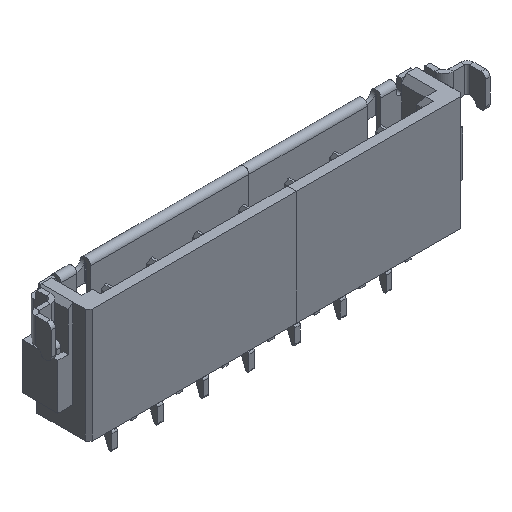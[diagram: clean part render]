
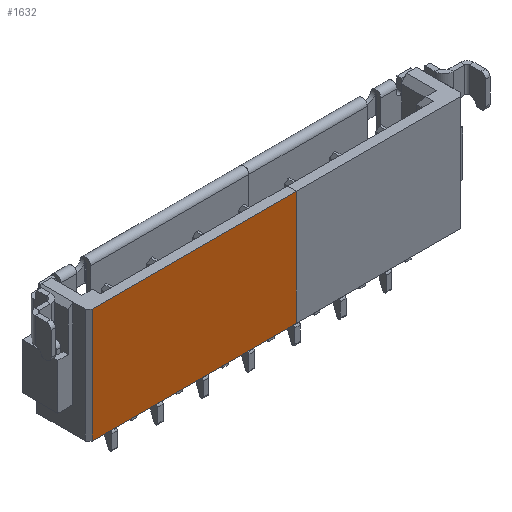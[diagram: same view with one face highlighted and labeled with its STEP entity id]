
A CAD part, isometric view. The second image highlights one B-rep face of the part: STEP entity #1632.
In plain terms, the highlighted planar face has unit normal (0, -1, 0).
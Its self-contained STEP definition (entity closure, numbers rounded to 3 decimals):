
#317=DIRECTION('',(0.,0.,-1.));
#318=VECTOR('',#317,5.);
#319=CARTESIAN_POINT('',(-0.125,-0.4,2.8));
#320=LINE('',#319,#318);
#321=DIRECTION('',(-1.,0.,0.));
#322=VECTOR('',#321,8.925);
#323=CARTESIAN_POINT('',(-0.125,-0.4,-2.2));
#324=LINE('',#323,#322);
#325=DIRECTION('',(0.,0.,1.));
#326=VECTOR('',#325,5.);
#327=CARTESIAN_POINT('',(-9.05,-0.4,-2.2));
#328=LINE('',#327,#326);
#329=DIRECTION('',(1.,0.,0.));
#330=VECTOR('',#329,8.925);
#331=CARTESIAN_POINT('',(-9.05,-0.4,2.8));
#332=LINE('',#331,#330);
#983=CARTESIAN_POINT('',(-0.125,-0.4,-2.2));
#984=VERTEX_POINT('',#983);
#985=CARTESIAN_POINT('',(-0.125,-0.4,2.8));
#986=VERTEX_POINT('',#985);
#997=CARTESIAN_POINT('',(-9.05,-0.4,-2.2));
#998=VERTEX_POINT('',#997);
#1133=CARTESIAN_POINT('',(-9.05,-0.4,2.8));
#1134=VERTEX_POINT('',#1133);
#1620=CARTESIAN_POINT('',(0.,-0.4,0.));
#1621=DIRECTION('',(0.,-1.,0.));
#1622=DIRECTION('',(1.,0.,0.));
#1623=AXIS2_PLACEMENT_3D('',#1620,#1621,#1622);
#1624=PLANE('',#1623);
#1625=ORIENTED_EDGE('',*,*,#1307,.T.);
#1626=ORIENTED_EDGE('',*,*,#1333,.T.);
#1628=ORIENTED_EDGE('',*,*,#1627,.T.);
#1629=ORIENTED_EDGE('',*,*,#1600,.T.);
#1630=EDGE_LOOP('',(#1625,#1626,#1628,#1629));
#1631=FACE_OUTER_BOUND('',#1630,.F.);
#1307=EDGE_CURVE('',#986,#984,#320,.T.);
#1333=EDGE_CURVE('',#984,#998,#324,.T.);
#1600=EDGE_CURVE('',#1134,#986,#332,.T.);
#1627=EDGE_CURVE('',#998,#1134,#328,.T.);
#1632=ADVANCED_FACE('',(#1631),#1624,.T.);
